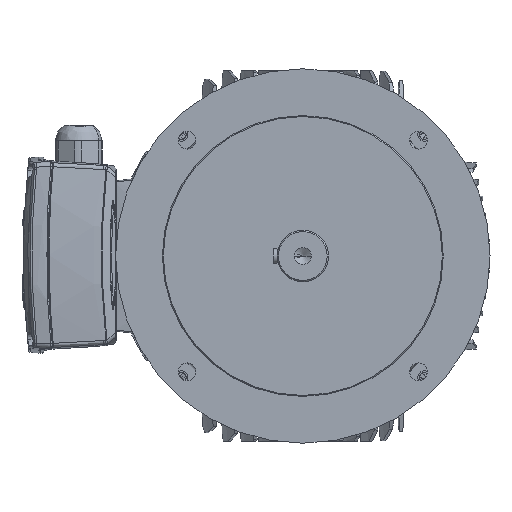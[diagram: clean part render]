
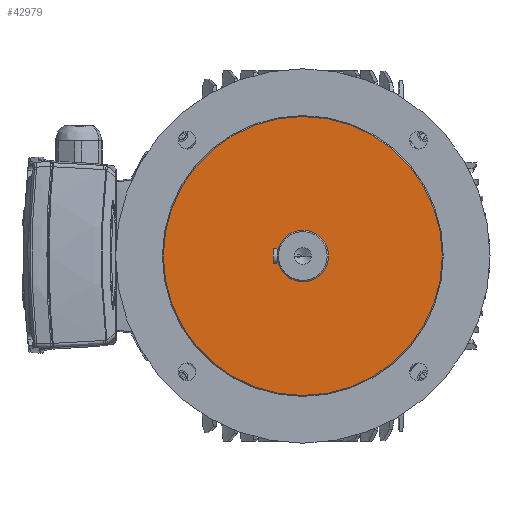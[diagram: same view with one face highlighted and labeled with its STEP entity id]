
A CAD part, left-side view. The second image highlights one B-rep face of the part: STEP entity #42979.
In plain terms, the highlighted planar face has unit normal (-1, 0, 0) as drawn and (0, 0, 1) by its records, which use the part's own axes.
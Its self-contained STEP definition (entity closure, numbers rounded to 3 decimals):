
#41243=CARTESIAN_POINT('',(0.,0.,32.));
#41244=DIRECTION('',(0.,0.,1.));
#41245=DIRECTION('',(0.,1.,0.));
#41246=AXIS2_PLACEMENT_3D('',#41243,#41244,#41245);
#41248=CARTESIAN_POINT('',(0.,0.,32.));
#41249=DIRECTION('',(0.,0.,1.));
#41250=DIRECTION('',(0.,-1.,0.));
#41251=AXIS2_PLACEMENT_3D('',#41248,#41249,#41250);
#41253=CARTESIAN_POINT('',(0.,0.,32.));
#41254=DIRECTION('',(0.,0.,1.));
#41255=DIRECTION('',(1.,0.,0.));
#41256=AXIS2_PLACEMENT_3D('',#41253,#41254,#41255);
#41258=CARTESIAN_POINT('',(0.,0.,32.));
#41259=DIRECTION('',(0.,0.,1.));
#41260=DIRECTION('',(-1.,0.,0.));
#41261=AXIS2_PLACEMENT_3D('',#41258,#41259,#41260);
#42582=CARTESIAN_POINT('',(0.,149.,32.));
#42584=VERTEX_POINT('',#42582);
#42586=CARTESIAN_POINT('',(0.,-149.,32.));
#42588=VERTEX_POINT('',#42586);
#42598=CARTESIAN_POINT('',(27.5,0.,32.));
#42599=CARTESIAN_POINT('',(-27.5,0.,32.));
#42600=VERTEX_POINT('',#42598);
#42601=VERTEX_POINT('',#42599);
#42963=CARTESIAN_POINT('',(0.,140.,32.));
#42964=DIRECTION('',(0.,0.,-1.));
#42965=DIRECTION('',(-1.,0.,0.));
#42966=AXIS2_PLACEMENT_3D('',#42963,#42964,#42965);
#42967=PLANE('',#42966);
#42969=ORIENTED_EDGE('',*,*,#42968,.F.);
#42970=ORIENTED_EDGE('',*,*,#42952,.F.);
#42971=EDGE_LOOP('',(#42969,#42970));
#42972=FACE_OUTER_BOUND('',#42971,.F.);
#42974=ORIENTED_EDGE('',*,*,#42973,.T.);
#42976=ORIENTED_EDGE('',*,*,#42975,.T.);
#42977=EDGE_LOOP('',(#42974,#42976));
#42978=FACE_BOUND('',#42977,.F.);
#41247=CIRCLE('',#41246,149.);
#41252=CIRCLE('',#41251,149.);
#41257=CIRCLE('',#41256,27.5);
#41262=CIRCLE('',#41261,27.5);
#42952=EDGE_CURVE('',#42588,#42584,#41252,.T.);
#42968=EDGE_CURVE('',#42584,#42588,#41247,.T.);
#42973=EDGE_CURVE('',#42600,#42601,#41257,.T.);
#42975=EDGE_CURVE('',#42601,#42600,#41262,.T.);
#42979=ADVANCED_FACE('',(#42972,#42978),#42967,.F.);
